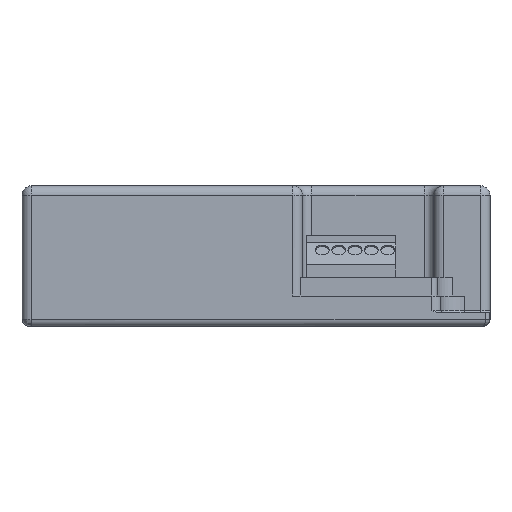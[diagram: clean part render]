
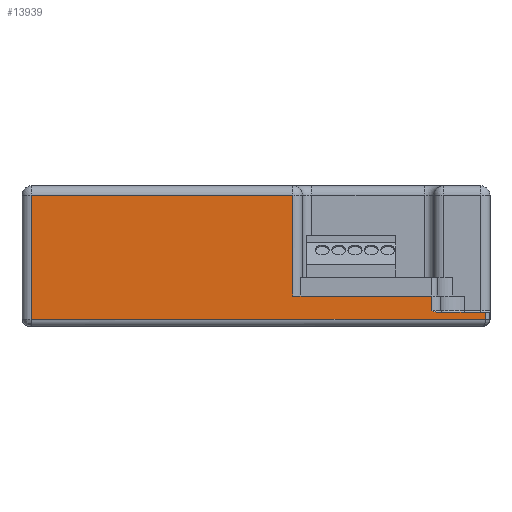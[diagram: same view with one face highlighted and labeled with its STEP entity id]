
A CAD part, front view. The second image highlights one B-rep face of the part: STEP entity #13939.
In plain terms, the highlighted planar face has unit normal (0, -1, 0).
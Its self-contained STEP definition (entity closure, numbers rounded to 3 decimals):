
#481=DIRECTION('',(-1.,0.,0.));
#482=VECTOR('',#481,10.173);
#483=CARTESIAN_POINT('',(49.,-70.,3.));
#484=LINE('',#483,#482);
#912=DIRECTION('',(-1.,0.,0.));
#913=VECTOR('',#912,29.6);
#914=CARTESIAN_POINT('',(37.5,-70.,6.45));
#915=LINE('',#914,#913);
#4085=CARTESIAN_POINT('',(49.,-70.,1.5));
#4090=DIRECTION('',(1.,0.,0.));
#4091=VECTOR('',#4090,55.9);
#4092=CARTESIAN_POINT('',(-48.,-70.,28.));
#4093=LINE('',#4092,#4091);
#4097=DIRECTION('',(0.,0.,1.));
#4098=VECTOR('',#4097,21.55);
#4099=CARTESIAN_POINT('',(7.9,-70.,6.45));
#4100=LINE('',#4099,#4098);
#4104=DIRECTION('',(0.,0.,1.));
#4105=VECTOR('',#4104,3.05);
#4106=CARTESIAN_POINT('',(37.5,-70.,3.4));
#4107=LINE('',#4106,#4105);
#4111=DIRECTION('',(0.,0.,-1.));
#4112=VECTOR('',#4111,1.5);
#4113=CARTESIAN_POINT('',(49.,-70.,3.));
#4114=LINE('',#4113,#4112);
#4118=DIRECTION('',(-1.,0.,0.));
#4119=VECTOR('',#4118,97.);
#4120=CARTESIAN_POINT('',(49.,-70.,1.5));
#4121=LINE('',#4120,#4119);
#4125=DIRECTION('',(0.,0.,-1.));
#4126=VECTOR('',#4125,26.5);
#4127=CARTESIAN_POINT('',(-48.,-70.,28.));
#4128=LINE('',#4127,#4126);
#7389=CARTESIAN_POINT('',(38.827,-70.,3.));
#7390=CARTESIAN_POINT('',(38.751,-70.,3.));
#7391=CARTESIAN_POINT('',(38.595,-70.,3.013));
#7392=CARTESIAN_POINT('',(38.343,-70.,3.068));
#7393=CARTESIAN_POINT('',(38.077,-70.,3.154));
#7394=CARTESIAN_POINT('',(37.797,-70.,3.267));
#7395=CARTESIAN_POINT('',(37.601,-70.,3.355));
#7396=CARTESIAN_POINT('',(37.5,-70.,3.4));
#10535=CARTESIAN_POINT('',(49.,-70.,3.));
#10537=VERTEX_POINT('',#10535);
#10540=VERTEX_POINT('',#4085);
#10688=CARTESIAN_POINT('',(7.9,-70.,6.45));
#10689=CARTESIAN_POINT('',(7.9,-70.,28.));
#10690=VERTEX_POINT('',#10688);
#10691=VERTEX_POINT('',#10689);
#10694=CARTESIAN_POINT('',(-48.,-70.,1.5));
#10696=VERTEX_POINT('',#10694);
#10742=VERTEX_POINT('',#7389);
#10743=VERTEX_POINT('',#7396);
#10774=CARTESIAN_POINT('',(37.5,-70.,6.45));
#10776=VERTEX_POINT('',#10774);
#11416=CARTESIAN_POINT('',(-48.,-70.,28.));
#11417=VERTEX_POINT('',#11416);
#13917=CARTESIAN_POINT('',(-50.,-70.,0.));
#13918=DIRECTION('',(0.,-1.,0.));
#13919=DIRECTION('',(1.,0.,0.));
#13920=AXIS2_PLACEMENT_3D('',#13917,#13918,#13919);
#13921=PLANE('',#13920);
#13923=ORIENTED_EDGE('',*,*,#13922,.T.);
#13925=ORIENTED_EDGE('',*,*,#13924,.F.);
#13926=ORIENTED_EDGE('',*,*,#12120,.F.);
#13928=ORIENTED_EDGE('',*,*,#13927,.F.);
#13930=ORIENTED_EDGE('',*,*,#13929,.F.);
#13931=ORIENTED_EDGE('',*,*,#11770,.F.);
#13932=ORIENTED_EDGE('',*,*,#13903,.T.);
#13934=ORIENTED_EDGE('',*,*,#13933,.T.);
#13936=ORIENTED_EDGE('',*,*,#13935,.F.);
#13937=EDGE_LOOP('',(#13923,#13925,#13926,#13928,#13930,#13931,#13932,#13934,
#13936));
#13938=FACE_OUTER_BOUND('',#13937,.F.);
#7397=B_SPLINE_CURVE_WITH_KNOTS('',3,(#7389,#7390,#7391,#7392,#7393,#7394,#7395,
#7396),.UNSPECIFIED.,.F.,.F.,(4,1,1,1,1,4),(0.,0.2,0.4,0.6,0.8,1.),
.UNSPECIFIED.);
#11770=EDGE_CURVE('',#10537,#10742,#484,.T.);
#12120=EDGE_CURVE('',#10776,#10690,#915,.T.);
#13903=EDGE_CURVE('',#10537,#10540,#4114,.T.);
#13922=EDGE_CURVE('',#11417,#10691,#4093,.T.);
#13924=EDGE_CURVE('',#10690,#10691,#4100,.T.);
#13927=EDGE_CURVE('',#10743,#10776,#4107,.T.);
#13929=EDGE_CURVE('',#10742,#10743,#7397,.T.);
#13933=EDGE_CURVE('',#10540,#10696,#4121,.T.);
#13935=EDGE_CURVE('',#11417,#10696,#4128,.T.);
#13939=ADVANCED_FACE('',(#13938),#13921,.T.);
